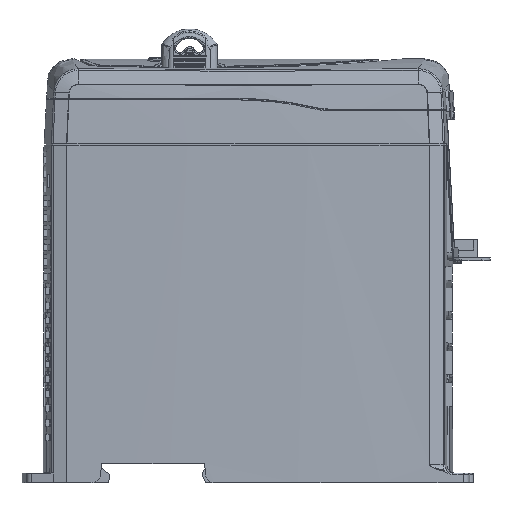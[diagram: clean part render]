
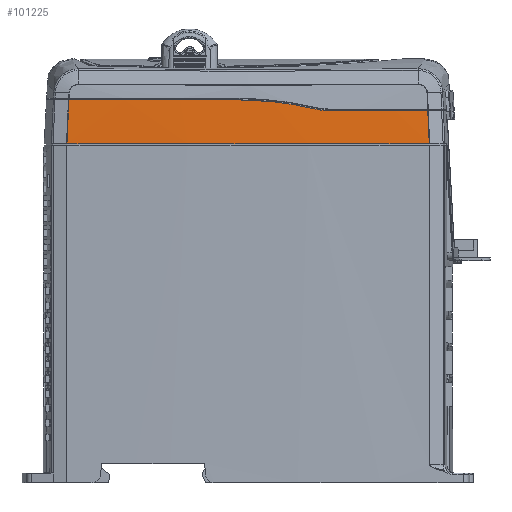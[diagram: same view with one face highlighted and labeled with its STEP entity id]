
A CAD part, left-side view. The second image highlights one B-rep face of the part: STEP entity #101225.
In plain terms, the highlighted conical face has half-angle 3 degrees and reference radius 1496.69 mm.
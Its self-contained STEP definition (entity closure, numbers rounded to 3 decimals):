
#95514=CARTESIAN_POINT('',(1459.583,0.,
116.));
#95515=DIRECTION('',(0.,0.,1.));
#95516=DIRECTION('',(-0.999,0.041,0.));
#95517=AXIS2_PLACEMENT_3D('',#95514,#95515,#95516);
#97089=CARTESIAN_POINT('',(1459.583,0.,
131.));
#97090=DIRECTION('',(0.,0.,-1.));
#97091=DIRECTION('',(-1.,0.003,0.));
#97092=AXIS2_PLACEMENT_3D('',#97089,#97090,#97091);
#97166=CARTESIAN_POINT('',(1459.583,0.,
127.3));
#97167=DIRECTION('',(0.,0.,-1.));
#97168=DIRECTION('',(-0.999,-0.041,
0.));
#97169=AXIS2_PLACEMENT_3D('',#97166,#97167,#97168);
#97270=CARTESIAN_POINT('',(-35.647,-61.425,
127.3));
#97271=CARTESIAN_POINT('',(-35.71,-61.481,
126.044));
#97272=CARTESIAN_POINT('',(-35.837,-61.594,
123.533));
#97273=CARTESIAN_POINT('',(-36.028,-61.762,
119.767));
#97274=CARTESIAN_POINT('',(-36.155,-61.875,
117.256));
#97275=CARTESIAN_POINT('',(-36.218,-61.931,
116.));
#97277=CARTESIAN_POINT('',(-36.218,61.931,
116.));
#97278=CARTESIAN_POINT('',(-36.134,61.856,
117.667));
#97279=CARTESIAN_POINT('',(-35.965,61.707,
121.));
#97280=CARTESIAN_POINT('',(-35.712,61.483,
126.));
#97281=CARTESIAN_POINT('',(-35.544,61.334,
129.333));
#97282=CARTESIAN_POINT('',(-35.459,61.259,
131.));
#97284=CARTESIAN_POINT('',(-36.708,4.2,
131.));
#97285=CARTESIAN_POINT('',(-36.717,1.173,
131.));
#97286=CARTESIAN_POINT('',(-36.726,-4.882,
130.765));
#97287=CARTESIAN_POINT('',(-36.727,-13.909,
129.708));
#97288=CARTESIAN_POINT('',(-36.714,-19.854,
128.539));
#97289=CARTESIAN_POINT('',(-36.706,-22.8,
127.84));
#97291=CARTESIAN_POINT('',(-36.706,-22.8,
127.84));
#97292=CARTESIAN_POINT('',(-36.704,-23.304,
127.721));
#97293=CARTESIAN_POINT('',(-36.699,-24.321,
127.521));
#97294=CARTESIAN_POINT('',(-36.682,-25.865,
127.34));
#97295=CARTESIAN_POINT('',(-36.666,-26.9,
127.3));
#97296=CARTESIAN_POINT('',(-36.657,-27.418,
127.3));
#98525=CARTESIAN_POINT('',(-36.218,61.931,
116.));
#98526=CARTESIAN_POINT('',(-36.218,-61.931,
116.));
#98527=VERTEX_POINT('',#98525);
#98528=VERTEX_POINT('',#98526);
#98985=CARTESIAN_POINT('',(-35.647,-61.425,
127.3));
#98986=CARTESIAN_POINT('',(-36.657,-27.418,
127.3));
#98987=VERTEX_POINT('',#98985);
#98988=VERTEX_POINT('',#98986);
#99014=CARTESIAN_POINT('',(-36.706,-22.8,
127.84));
#99015=VERTEX_POINT('',#99014);
#99016=CARTESIAN_POINT('',(-36.708,4.2,
131.));
#99017=VERTEX_POINT('',#99016);
#99018=CARTESIAN_POINT('',(-35.459,61.26,
131.));
#99019=VERTEX_POINT('',#99018);
#101210=CARTESIAN_POINT('',(1459.583,0.,
123.5));
#101211=DIRECTION('',(0.,0.,-1.));
#101212=DIRECTION('',(0.999,-0.043,0.));
#101213=AXIS2_PLACEMENT_3D('',#101210,#101211,#101212);
#101214=CONICAL_SURFACE('',#101213,1496.69,3.);
#101215=ORIENTED_EDGE('',*,*,#101200,.T.);
#101216=ORIENTED_EDGE('',*,*,#99198,.F.);
#101218=ORIENTED_EDGE('',*,*,#101217,.T.);
#101219=ORIENTED_EDGE('',*,*,#100974,.F.);
#101220=ORIENTED_EDGE('',*,*,#101009,.T.);
#101221=ORIENTED_EDGE('',*,*,#101087,.T.);
#101222=ORIENTED_EDGE('',*,*,#101113,.F.);
#101223=EDGE_LOOP('',(#101215,#101216,#101218,#101219,#101220,#101221,#101222));
#101224=FACE_OUTER_BOUND('',#101223,.F.);
#101225=ADVANCED_FACE('',(#101224),#101214,.T.);
#95518=CIRCLE('',#95517,1497.083);
#97093=CIRCLE('',#97092,1496.297);
#97170=CIRCLE('',#97169,1496.491);
#97276=B_SPLINE_CURVE_WITH_KNOTS('',3,(#97270,#97271,#97272,#97273,#97274,
#97275),.UNSPECIFIED.,.F.,.F.,(4,1,1,4),(0.,0.333,
0.667,1.),.UNSPECIFIED.);
#97283=B_SPLINE_CURVE_WITH_KNOTS('',3,(#97277,#97278,#97279,#97280,#97281,
#97282),.UNSPECIFIED.,.F.,.F.,(4,1,1,4),(0.,0.333,
0.667,1.),.UNSPECIFIED.);
#97290=B_SPLINE_CURVE_WITH_KNOTS('',3,(#97284,#97285,#97286,#97287,#97288,
#97289),.UNSPECIFIED.,.F.,.F.,(4,1,1,4),(0.,0.333,
0.667,1.),.UNSPECIFIED.);
#97297=B_SPLINE_CURVE_WITH_KNOTS('',3,(#97291,#97292,#97293,#97294,#97295,
#97296),.UNSPECIFIED.,.F.,.F.,(4,1,1,4),(0.,0.333,
0.667,1.),.UNSPECIFIED.);
#99198=EDGE_CURVE('',#98527,#98528,#95518,.T.);
#100974=EDGE_CURVE('',#99017,#99019,#97093,.T.);
#101009=EDGE_CURVE('',#99017,#99015,#97290,.T.);
#101087=EDGE_CURVE('',#99015,#98988,#97297,.T.);
#101113=EDGE_CURVE('',#98987,#98988,#97170,.T.);
#101200=EDGE_CURVE('',#98987,#98528,#97276,.T.);
#101217=EDGE_CURVE('',#98527,#99019,#97283,.T.);
